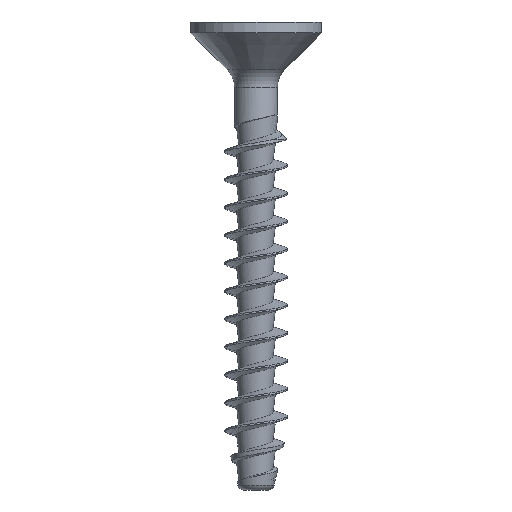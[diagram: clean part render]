
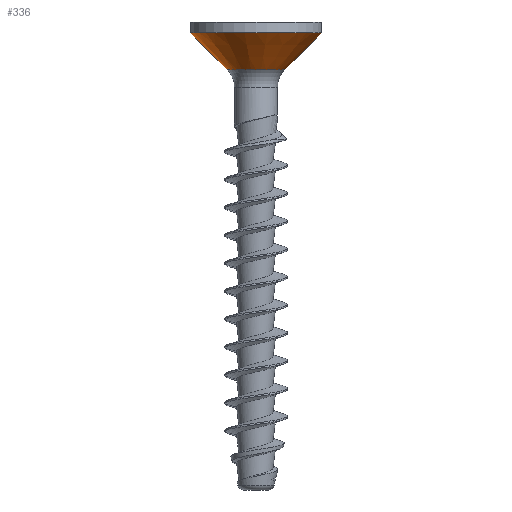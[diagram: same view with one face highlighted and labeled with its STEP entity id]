
A CAD part, front view. The second image highlights one B-rep face of the part: STEP entity #336.
In plain terms, the highlighted conical face has half-angle 45 degrees and reference radius 1.38 mm.
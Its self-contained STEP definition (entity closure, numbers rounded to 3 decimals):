
#313=FACE_BOUND('',#529,.T.);
#314=FACE_BOUND('',#530,.T.);
#323=CONICAL_SURFACE('',#1610,1.38,45.);
#336=ADVANCED_FACE('',(#313,#314),#323,.T.);
#529=EDGE_LOOP('',(#725));
#530=EDGE_LOOP('',(#726));
#629=CIRCLE('',#1608,1.849);
#630=CIRCLE('',#1609,4.2);
#725=ORIENTED_EDGE('',*,*,#1326,.T.);
#726=ORIENTED_EDGE('',*,*,#1327,.F.);
#1176=VERTEX_POINT('',#3607);
#1177=VERTEX_POINT('',#3609);
#1326=EDGE_CURVE('',#1176,#1176,#629,.T.);
#1327=EDGE_CURVE('',#1177,#1177,#630,.T.);
#1608=AXIS2_PLACEMENT_3D('',#3606,#1740,#1741);
#1609=AXIS2_PLACEMENT_3D('',#3608,#1742,#1743);
#1610=AXIS2_PLACEMENT_3D('',#3610,#1744,#1745);
#1740=DIRECTION('',(0.,0.,1.));
#1741=DIRECTION('',(1.,0.,0.));
#1742=DIRECTION('',(0.,0.,1.));
#1743=DIRECTION('',(1.,0.,0.));
#1744=DIRECTION('',(0.,0.,1.));
#1745=DIRECTION('',(1.,0.,0.));
#3606=CARTESIAN_POINT('',(0.,0.,0.469));
#3607=CARTESIAN_POINT('',(1.849,0.,0.469));
#3608=CARTESIAN_POINT('',(0.,0.,2.82));
#3609=CARTESIAN_POINT('',(4.2,0.,2.82));
#3610=CARTESIAN_POINT('',(0.,0.,0.));
